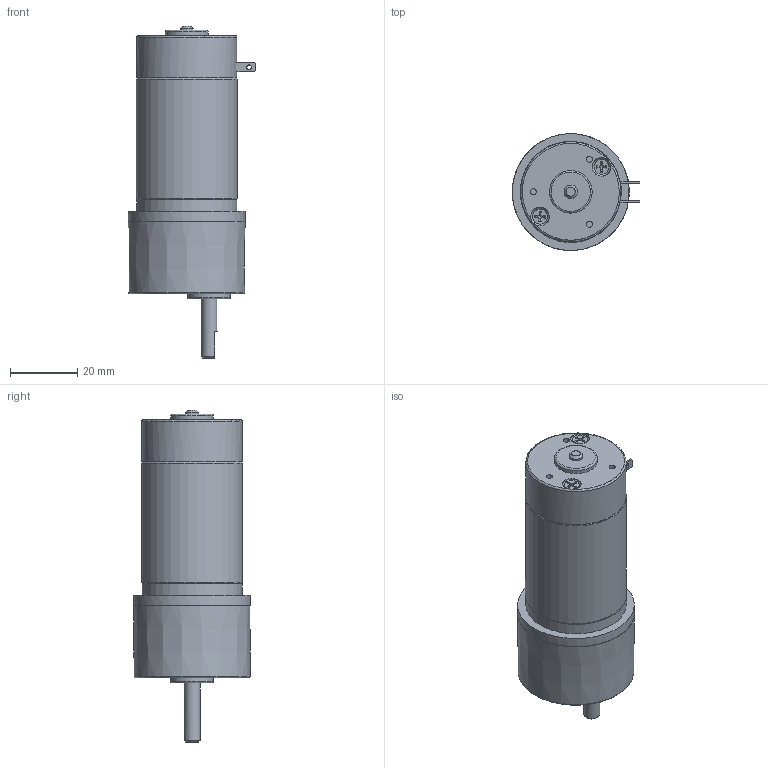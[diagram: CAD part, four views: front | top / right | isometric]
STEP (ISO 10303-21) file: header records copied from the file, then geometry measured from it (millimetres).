
FILE_DESCRIPTION((''),'2;1');
FILE_NAME('Z:\4_DC\새 폴더\RS3 SERIES\RS33ㅁㅁT(O~U).stp','2015-02-12T15:58:08',('kdhkdh'),(''),'Autodesk Inventor 2013','Autodesk Inventor 2013','');
FILE_SCHEMA(('AUTOMOTIVE_DESIGN { 1 0 10303 214 1 1 1 1 }'));
Length unit declared in the file: millimetre
Products named in the file (1): 부품2
Bounding box: 37.88 x 34.74 x 98.59 mm (x, y, z)
Volume: 60340 mm3; surface area: 10416.6 mm2
Topology: 1 solids, 6 shells, 205 faces, 522 edges, 343 vertices
Faces by surface type: plane 82, cylinder 56, cone 43, torus 24
Full cylindrical faces by diameter (mm): 1.362 x2, 1.8 x3, 2.156 x3, 2.5 x5, 2.6 x2, 2.7 x3, 4 x1, 4.4 x5, 4.76 x1, 5.5 x5, 12.7 x2, 29.8 x2, 30 x1, 34.7 x1
Entity records: 6256 total; most frequent: CARTESIAN_POINT 1725, DIRECTION 870, ORIENTED_EDGE 862, EDGE_CURVE 431, AXIS2_PLACEMENT_3D 377, VERTEX_POINT 314, EDGE_LOOP 295, FACE_OUTER_BOUND 205
